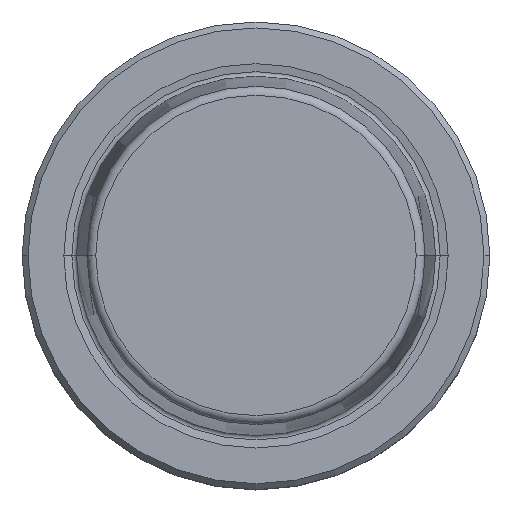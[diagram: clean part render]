
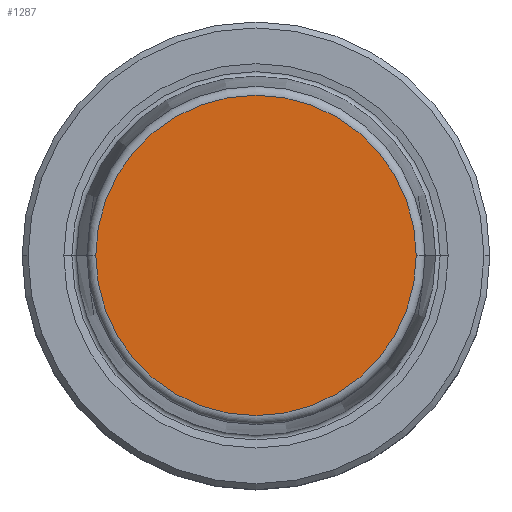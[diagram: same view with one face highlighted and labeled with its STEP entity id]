
A CAD part, top view. The second image highlights one B-rep face of the part: STEP entity #1287.
In plain terms, the highlighted planar face has unit normal (0, 0, 1).
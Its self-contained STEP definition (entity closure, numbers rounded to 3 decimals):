
#5 = VERTEX_POINT ( 'NONE', #1145 ) ;
#131 = CARTESIAN_POINT ( 'NONE',  ( 0., 0., 32.091 ) ) ;
#219 = EDGE_CURVE ( 'NONE', #5, #314, #889, .T. ) ;
#228 = CARTESIAN_POINT ( 'NONE',  ( 0., 0., 32.091 ) ) ;
#259 = DIRECTION ( 'NONE',  ( 1., 0., 0. ) ) ;
#314 = VERTEX_POINT ( 'NONE', #368 ) ;
#368 = CARTESIAN_POINT ( 'NONE',  ( -21.581, 0., 32.091 ) ) ;
#492 = ORIENTED_EDGE ( 'NONE', *, *, #219, .T. ) ;
#590 = ORIENTED_EDGE ( 'NONE', *, *, #1294, .T. ) ;
#662 = DIRECTION ( 'NONE',  ( 0., 0., -1. ) ) ;
#668 = DIRECTION ( 'NONE',  ( 0., 0., 1. ) ) ;
#778 = AXIS2_PLACEMENT_3D ( 'NONE', #1366, #668, #1479 ) ;
#889 = CIRCLE ( 'NONE', #1049, 21.581 ) ;
#917 = DIRECTION ( 'NONE',  ( 0., 0., 1. ) ) ;
#1035 = FACE_OUTER_BOUND ( 'NONE', #1044, .T. ) ;
#1044 = EDGE_LOOP ( 'NONE', ( #492, #590 ) ) ;
#1049 = AXIS2_PLACEMENT_3D ( 'NONE', #131, #917, #259 ) ;
#1122 = PLANE ( 'NONE',  #1125 ) ;
#1125 = AXIS2_PLACEMENT_3D ( 'NONE', #228, #662, #1475 ) ;
#1145 = CARTESIAN_POINT ( 'NONE',  ( 21.581, 0., 32.091 ) ) ;
#1287 = ADVANCED_FACE ( 'NONE', ( #1035 ), #1122, .F. ) ;
#1294 = EDGE_CURVE ( 'NONE', #314, #5, #1443, .T. ) ;
#1366 = CARTESIAN_POINT ( 'NONE',  ( 0., 0., 32.091 ) ) ;
#1443 = CIRCLE ( 'NONE', #778, 21.581 ) ;
#1475 = DIRECTION ( 'NONE',  ( -1., 0., 0. ) ) ;
#1479 = DIRECTION ( 'NONE',  ( 1., 0., 0. ) ) ;
